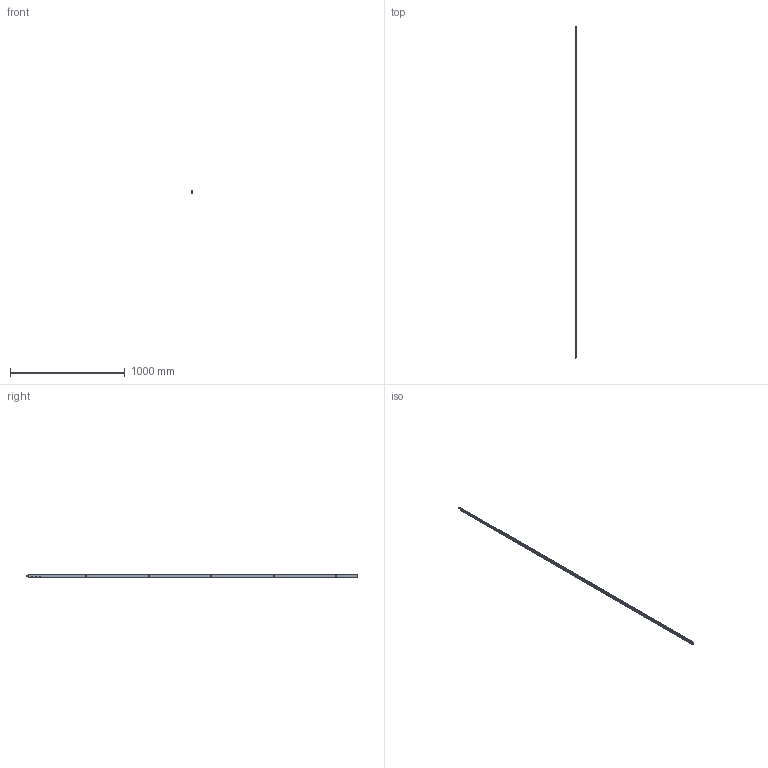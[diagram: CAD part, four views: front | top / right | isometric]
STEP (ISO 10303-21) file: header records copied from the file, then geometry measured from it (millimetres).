
FILE_DESCRIPTION (( 'STEP AP214' ), '1' );
FILE_NAME ('TPL-W-532-L 19July2024.STEP', '2024-12-05T00:27:15', ( '' ), ( '' ), 'SwSTEP 2.0', 'SolidWorks 2023', '' );
FILE_SCHEMA (( 'AUTOMOTIVE_DESIGN' ));
Length unit declared in the file: millimetre
Products named in the file (15): Copy of Adapter CnE - simplfied^TPL-W-002 19July2024_26mm backset; Copy of TPLGen2 push rod - simplified^Copy of TPLGen2 lock body non-keyed assembly_TPL-W-002 19July2024_Female thread M10; Copy of COV-112-C Cover C TPLGen2 Lock body^TPL-W-002 19July2024; Bolt(2)^TPL-W-002 19July2024; Copy of Handle sub-assembly - simplified^Copy of TPGen2 handle non-keyed - simplified_TPL-W-002 19July2024; Copy of TPLGen2 lock body non-keyed^Copy of TPLGen2 lock body non-keyed assembly_TPL-W-002 19July2024; TPL-W-532-L 19July2024; Copy of Copy of LKC-531 Lock twinpoint transmission rod wood system^TPL-W-002 19July2024_Standard Range 2891.7mm; Copy of LKC-547 Spindle - simplified^Copy of TPGen2 handle non-keyed - simplified_TPL-W-002 19July2024_C - 15mm; Copy of Escutcheon plate unkeyed 185mm - simplified^Copy of TPGen2 handle non-keyed - simplified_TPL-W-002 19July2024; Copy of COV-112-A Cover A suit TPLGen2 standard range^TPL-W-002 19July2024_1335mm; Copy (2) of COV-112-B Cover B suit TPLGen2 standard range^TPL-W-002 19July2024_2870mm; Copy of Copy of Copy of LKC-531 Lock twinpoint transmission rod wood system^TPL-W-002 19July2024_Standard Range 2891.7mm; Copy of Adapter DnF - simplfied^TPL-W-002 19July2024_26mm backset
Assembly tree (3 placements, depth 2):
  Copy of Adapter CnE - simplfied^TPL-W-002 19July2024_26mm backset
  Copy of TPLGen2 push rod - simplified^Copy of TPLGen2 lock body non-keyed assembly_TPL-W-002 19July2024_Female thread M10
  Copy of COV-112-C Cover C TPLGen2 Lock body^TPL-W-002 19July2024
  Bolt(2)^TPL-W-002 19July2024
  Copy of Handle sub-assembly - simplified^Copy of TPGen2 handle non-keyed - simplified_TPL-W-002 19July2024
Bounding box: 10.8 x 2895 x 27 mm (x, y, z)
Volume: 471084.5 mm3; surface area: 385494.8 mm2
Topology: 3 solids, 3 shells, 134 faces, 406 edges, 268 vertices
Faces by surface type: plane 59, cylinder 51, cone 22, sphere 2
Entity records: 5311 total; most frequent: CARTESIAN_POINT 1388, ORIENTED_EDGE 806, DIRECTION 759, EDGE_CURVE 403, AXIS2_PLACEMENT_3D 276, VERTEX_POINT 267, LINE 207, VECTOR 207
